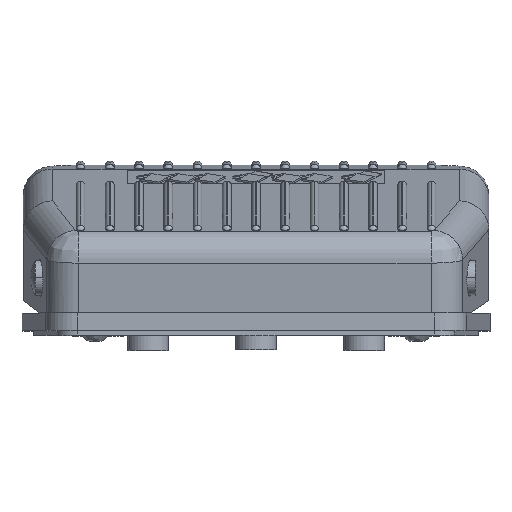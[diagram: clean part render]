
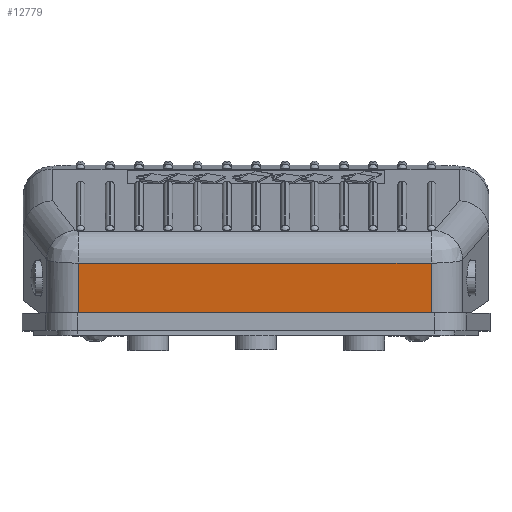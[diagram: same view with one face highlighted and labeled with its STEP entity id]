
A CAD part, top view. The second image highlights one B-rep face of the part: STEP entity #12779.
In plain terms, the highlighted planar face has unit normal (0, -0.119, 0.993).
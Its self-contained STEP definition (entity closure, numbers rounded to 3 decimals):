
#1006=CARTESIAN_POINT('',(-30.367,3.,40.316));
#1020=DIRECTION('',(0.,-0.993,-0.119));
#1021=VECTOR('',#1020,8.575);
#1022=CARTESIAN_POINT('',(-30.367,11.514,41.334));
#1023=LINE('',#1022,#1021);
#1942=DIRECTION('',(0.,0.993,0.119));
#1943=VECTOR('',#1942,8.575);
#1944=CARTESIAN_POINT('',(29.927,3.,40.316));
#1945=LINE('',#1944,#1943);
#1950=DIRECTION('',(-1.,0.,0.));
#1951=VECTOR('',#1950,60.293);
#1952=CARTESIAN_POINT('',(29.927,3.,40.316));
#1953=LINE('',#1952,#1951);
#1954=DIRECTION('',(-1.,0.,0.));
#1955=VECTOR('',#1954,60.293);
#1956=CARTESIAN_POINT('',(29.926,11.514,41.335));
#1957=LINE('',#1956,#1955);
#9040=VERTEX_POINT('',#1006);
#9041=CARTESIAN_POINT('',(29.927,3.,40.316));
#9042=VERTEX_POINT('',#9041);
#9635=CARTESIAN_POINT('',(29.926,11.514,41.335));
#9636=VERTEX_POINT('',#9635);
#9637=CARTESIAN_POINT('',(-30.367,11.514,41.334));
#9638=VERTEX_POINT('',#9637);
#12767=CARTESIAN_POINT('',(-0.22,7.257,
40.825));
#12768=DIRECTION('',(0.,-0.119,0.993));
#12769=DIRECTION('',(1.,0.,0.));
#12770=AXIS2_PLACEMENT_3D('',#12767,#12768,#12769);
#12771=PLANE('',#12770);
#12772=ORIENTED_EDGE('',*,*,#11917,.T.);
#12773=ORIENTED_EDGE('',*,*,#11846,.F.);
#12775=ORIENTED_EDGE('',*,*,#12774,.F.);
#12776=ORIENTED_EDGE('',*,*,#12759,.F.);
#12777=EDGE_LOOP('',(#12772,#12773,#12775,#12776));
#12778=FACE_OUTER_BOUND('',#12777,.F.);
#12779=ADVANCED_FACE('',(#12778),#12771,.T.);
#11846=EDGE_CURVE('',#9638,#9040,#1023,.T.);
#11917=EDGE_CURVE('',#9042,#9040,#1953,.T.);
#12759=EDGE_CURVE('',#9042,#9636,#1945,.T.);
#12774=EDGE_CURVE('',#9636,#9638,#1957,.T.);
